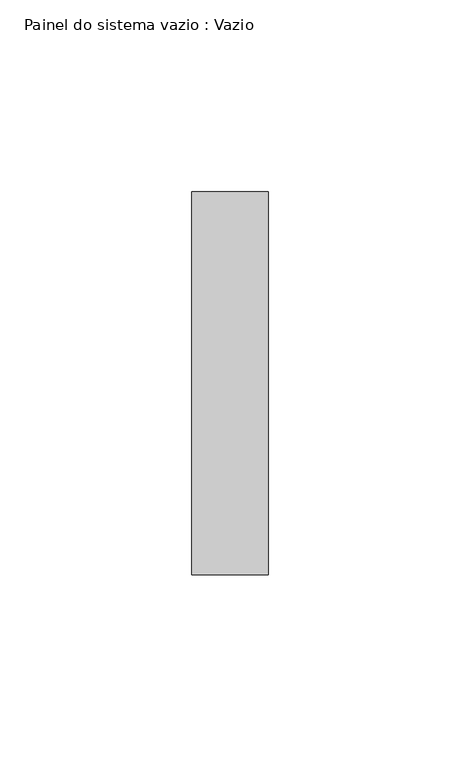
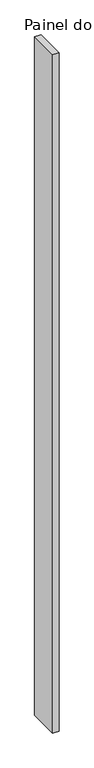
"""IFC4 building model written with IfcOpenShell, lengths in millimetres: plate geometry, Painel do sistema vazio : Vazio."""

import ifcopenshell
import ifcopenshell.guid

model = None  # the IFC model being written
_history = None  # IfcOwnerHistory: only IFC2X3 demands one
_inside = {}  # id of a spatial element -> (the spatial element, [elements in it])
_under = {}  # id of a project, library or spatial element -> (it, [spatial elements below it])
_declared = {}  # id of a project -> (the project, [libraries it declares])
_typed = {}  # id of a type object -> (the type object, [elements of that type])
_made_of = {}  # id of a material, layer set ... -> (it, [elements and type objects made of it])


def new_model(schema):
    """Start an empty IFC model of exactly this schema.

    Asked for "IFC4X3", IfcOpenShell would pick the latest addendum, in which some entities
    have other attributes; the version numbers below select the first issue.
    IFC2X3 requires an IfcOwnerHistory on every rooted entity: one is made here for all.
    """
    global model, _history
    if schema == "IFC4X3":
        model = ifcopenshell.file(schema_version=(4, 3, 0, 0))
    else:
        model = ifcopenshell.file(schema=schema)
    _inside.clear()
    _under.clear()
    _declared.clear()
    _typed.clear()
    _made_of.clear()
    _history = None
    if model.schema == "IFC2X3":
        org = make("IfcOrganization", Name="unknown")
        user = make(
            "IfcPersonAndOrganization",
            ThePerson=make("IfcPerson", FamilyName="unknown"),
            TheOrganization=org,
        )
        app = make(
            "IfcApplication",
            ApplicationDeveloper=org,
            Version="unknown",
            ApplicationFullName="unknown",
            ApplicationIdentifier="unknown",
        )
        _history = make(
            "IfcOwnerHistory",
            OwningUser=user,
            OwningApplication=app,
            ChangeAction="ADDED",
            CreationDate=0,
        )
    return model


def make(cls, **values):
    """One entity of the class cls with the attributes given. An attribute that is None is left unset."""
    return model.create_entity(
        cls, **{name: value for name, value in values.items() if value is not None}
    )


def rooted(cls, **values):
    """An entity with a GlobalId (a new one), such as an element, a storey or a relation."""
    return make(cls, GlobalId=ifcopenshell.guid.new(), OwnerHistory=_history, **values)


def si_unit(unit_type, name, prefix=None):
    """IfcSIUnit, for example si_unit("LENGTHUNIT", "METRE", prefix="MILLI")."""
    return make("IfcSIUnit", UnitType=unit_type, Prefix=prefix, Name=name)


def assignment(units):
    """IfcUnitAssignment: the units of a project."""
    return None if units is None else make("IfcUnitAssignment", Units=units)


def point(xyz):
    """IfcCartesianPoint."""
    return None if xyz is None else make("IfcCartesianPoint", Coordinates=xyz)


def direction(xyz):
    """IfcDirection."""
    return None if xyz is None else make("IfcDirection", DirectionRatios=xyz)


def frame(location, z_axis=None, x_axis=None):
    """IfcAxis2Placement3D, a coordinate frame: its origin and axes. An axis left out is left unset."""
    return make(
        "IfcAxis2Placement3D",
        Location=point(location),
        Axis=direction(z_axis),
        RefDirection=direction(x_axis),
    )


def origin():
    """The frame at (0, 0, 0) with its axes left unset."""
    return frame((0.0, 0.0, 0.0))


def origin_with_axes():
    """The frame at (0, 0, 0) with the z axis (0, 0, 1) and the x axis (1, 0, 0) written out."""
    return frame((0.0, 0.0, 0.0), z_axis=(0.0, 0.0, 1.0), x_axis=(1.0, 0.0, 0.0))


def place(relative_to, where):
    """IfcLocalPlacement: puts the frame where relative to a parent placement (None: the world)."""
    return make(
        "IfcLocalPlacement", PlacementRelTo=relative_to, RelativePlacement=where
    )


def context(
    kind, dimensions, precision=None, world=None, true_north=None, identifier=None
):
    """IfcGeometricRepresentationContext, for example the 3D "Model" context."""
    return make(
        "IfcGeometricRepresentationContext",
        ContextIdentifier=identifier,
        ContextType=kind,
        CoordinateSpaceDimension=dimensions,
        Precision=precision,
        WorldCoordinateSystem=world,
        TrueNorth=true_north,
    )


def project(units=None, contexts=None):
    """IfcProject with its units and contexts."""
    return rooted(
        "IfcProject",
        Name="project",
        RepresentationContexts=contexts,
        UnitsInContext=assignment(units),
    )


def spatial(cls, under=None, at=None, **own):
    """A site, building, storey or space (cls), placed at a placement, below another one or the project."""
    s = rooted(cls, ObjectPlacement=at, **own)
    if under is not None:
        _under.setdefault(under.id(), (under, []))[1].append(s)
    return s


def polyline(points):
    """IfcPolyline through the points."""
    return make("IfcPolyline", Points=[point(p) for p in points])


def outline(outer, holes=None, kind="AREA"):
    """IfcArbitraryClosedProfileDef: a profile drawn as a closed curve; with holes, ...WithVoids."""
    if holes is None:
        return make("IfcArbitraryClosedProfileDef", ProfileType=kind, OuterCurve=outer)
    return make(
        "IfcArbitraryProfileDefWithVoids",
        ProfileType=kind,
        OuterCurve=outer,
        InnerCurves=holes,
    )


def extrude(swept, where, along, depth):
    """IfcExtrudedAreaSolid: the profile swept, set in the frame where, extruded along a direction by depth."""
    return make(
        "IfcExtrudedAreaSolid",
        SweptArea=swept,
        Position=where,
        ExtrudedDirection=direction(along),
        Depth=depth,
    )


def shape(context_of_items, identifier, shape_type, items):
    """IfcShapeRepresentation: the items that make up one representation, for example the "Body"."""
    return make(
        "IfcShapeRepresentation",
        ContextOfItems=context_of_items,
        RepresentationIdentifier=identifier,
        RepresentationType=shape_type,
        Items=items,
    )


def source(mapping_origin, context_of_items, identifier, shape_type, items):
    """IfcRepresentationMap: a shape defined once, which mapped items show again and again."""
    return make(
        "IfcRepresentationMap",
        MappingOrigin=mapping_origin,
        MappedRepresentation=shape(context_of_items, identifier, shape_type, items),
    )


def transform(
    local_origin,
    x_axis=None,
    y_axis=None,
    z_axis=None,
    scale=None,
    scale2=None,
    scale3=None,
    uniform=True,
):
    """IfcCartesianTransformationOperator3D, or its non-uniform kind. x_axis, y_axis, z_axis: its Axis1, 2, 3."""
    if uniform:
        return make(
            "IfcCartesianTransformationOperator3D",
            Axis1=direction(x_axis),
            Axis2=direction(y_axis),
            LocalOrigin=point(local_origin),
            Scale=scale,
            Axis3=direction(z_axis),
        )
    return make(
        "IfcCartesianTransformationOperator3DnonUniform",
        Axis1=direction(x_axis),
        Axis2=direction(y_axis),
        LocalOrigin=point(local_origin),
        Scale=scale,
        Axis3=direction(z_axis),
        Scale2=scale2,
        Scale3=scale3,
    )


def mapped(mapping_source, mapping_target):
    """IfcMappedItem: shows the shape of a source again, moved by a transform."""
    return make(
        "IfcMappedItem", MappingSource=mapping_source, MappingTarget=mapping_target
    )


def made_of(thing, what):
    """Note that an element or type object is made of a material, layer set ...; save() writes the relation."""
    if what is not None:
        _made_of.setdefault(what.id(), (what, []))[1].append(thing)
    return thing


def element(
    cls,
    number,
    at=None,
    inside=None,
    cuts=None,
    type_object=None,
    material=None,
    context=None,
    identifier="Body",
    shape_type=None,
    held_by="IfcProductDefinitionShape",
    body=None,
    shapes=None,
    **own,
):
    """One element of the class cls, such as IfcWall. Its Tag is "e" and its number.

    at: its placement. inside: the storey or other place that contains it. cuts: it is an
    opening in that element (IfcRelVoidsElement). A single representation is given by context,
    identifier, shape_type and body (its items); several are given by shapes. held_by: the class
    of the entity that holds the representations. save() writes the other relations.
    """
    e = rooted(cls, Tag="e%d" % number, ObjectPlacement=at, **own)
    if body is not None:
        shapes = [shape(context, identifier, shape_type, body)]
    if shapes is not None:
        e.Representation = make(held_by, Representations=shapes)
    if inside is not None:
        _inside.setdefault(inside.id(), (inside, []))[1].append(e)
    if cuts is not None:
        rooted(
            "IfcRelVoidsElement", RelatingBuildingElement=cuts, RelatedOpeningElement=e
        )
    if type_object is not None:
        _typed.setdefault(type_object.id(), (type_object, []))[1].append(e)
    return made_of(e, material)


def aggregate(whole, parts):
    """IfcRelAggregates: a whole, such as a stair, and the parts it consists of."""
    return rooted("IfcRelAggregates", RelatingObject=whole, RelatedObjects=parts)


def save(model, path):
    """Write the relations noted so far, then the file.

    IfcRelAggregates (storeys below a building ...), IfcRelContainedInSpatialStructure (elements
    in a storey), IfcRelDefinesByType, IfcRelAssociatesMaterial and IfcRelDeclares: one each for
    every whole, place, type object, material and project.
    """
    for whole, parts in _under.values():
        aggregate(whole, parts)
    for where, things in _inside.values():
        rooted(
            "IfcRelContainedInSpatialStructure",
            RelatedElements=things,
            RelatingStructure=where,
        )
    for kind, things in _typed.values():
        rooted("IfcRelDefinesByType", RelatedObjects=things, RelatingType=kind)
    for what, things in _made_of.values():
        rooted("IfcRelAssociatesMaterial", RelatedObjects=things, RelatingMaterial=what)
    for by, libraries in _declared.values():
        rooted("IfcRelDeclares", RelatingContext=by, RelatedDefinitions=libraries)
    model.write(path)


def painel_do_sistema_vazio_vazio_0f527706(model_context):
    return source(origin(), model_context, "Body", "SweptSolid", [
        extrude(outline(polyline([(10.0, -50.0), (-10.0, -50.0), (-10.0, 50.0), (10.0, 50.0), (10.0, -50.0)])), origin_with_axes(), (0.0, 0.0, 1.0), 2300.0),
    ])


if __name__ == "__main__":
    model = new_model("IFC4")
    model_context = context("Model", 3, world=origin())
    ifc_project = project(units=[si_unit("LENGTHUNIT", "METRE", prefix="MILLI")], contexts=[model_context])
    site = spatial("IfcSite", under=ifc_project)
    building = spatial("IfcBuilding", under=site)
    placement = place(None, origin())
    painel_do_sistema_vazio_vazio_shape = painel_do_sistema_vazio_vazio_0f527706(model_context)
    element("IfcPlate", 1, ObjectType="Painel do sistema vazio : Vazio", at=placement, inside=building, context=model_context, shape_type="MappedRepresentation", body=[
        mapped(painel_do_sistema_vazio_vazio_shape, transform((0.0, 0.0, 0.0), x_axis=(1.0, 0.0, 0.0), y_axis=(0.0, 1.0, 0.0), z_axis=(0.0, 0.0, 1.0))),
    ])
    save(model, "model.ifc")
